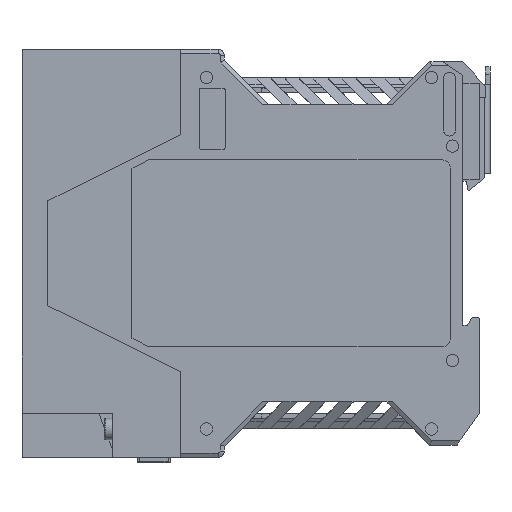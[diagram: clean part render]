
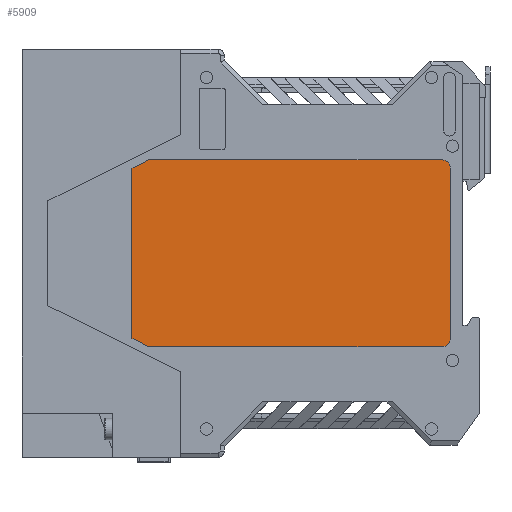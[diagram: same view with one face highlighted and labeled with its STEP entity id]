
A CAD part, left-side view. The second image highlights one B-rep face of the part: STEP entity #5909.
In plain terms, the highlighted planar face has unit normal (-1, 0, 0) as drawn and (0, 0, -1) by its records, which use the part's own axes.
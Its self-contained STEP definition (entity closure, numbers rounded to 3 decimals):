
#5909=ADVANCED_FACE('',(#31295),#31297,.T.);
#31295=FACE_BOUND('',#31296,.T.);
#31296=EDGE_LOOP('',(#51931,#51932,#51933,#51934,#51935,#51936,#51937,#51938));
#31297=PLANE('',#31298);
#31298=AXIS2_PLACEMENT_3D('',#31299,#31300,#31301);
#31299=CARTESIAN_POINT('',(-34.89,74.275,-11.1));
#31300=DIRECTION('',(0.,0.,-1.));
#31301=DIRECTION('',(-1.,0.,0.));
#51931=ORIENTED_EDGE('',*,*,#67457,.T.);
#51932=ORIENTED_EDGE('',*,*,#67458,.T.);
#51933=ORIENTED_EDGE('',*,*,#67459,.T.);
#51934=ORIENTED_EDGE('',*,*,#67460,.F.);
#51935=ORIENTED_EDGE('',*,*,#67461,.T.);
#51936=ORIENTED_EDGE('',*,*,#67462,.F.);
#51937=ORIENTED_EDGE('',*,*,#67456,.T.);
#51938=ORIENTED_EDGE('',*,*,#67454,.T.);
#67454=EDGE_CURVE('',#77293,#77295,#77297,.T.);
#67456=EDGE_CURVE('',#77298,#77293,#77300,.T.);
#67457=EDGE_CURVE('',#77295,#77301,#77302,.T.);
#67458=EDGE_CURVE('',#77301,#77303,#77304,.T.);
#67459=EDGE_CURVE('',#77303,#77305,#77306,.T.);
#67460=EDGE_CURVE('',#77307,#77305,#77308,.T.);
#67461=EDGE_CURVE('',#77307,#77309,#77310,.T.);
#67462=EDGE_CURVE('',#77298,#77309,#77311,.T.);
#77293=VERTEX_POINT('',#95447);
#77295=VERTEX_POINT('',#95451);
#77297=LINE('',#95455,#95456);
#77298=VERTEX_POINT('',#95458);
#77300=LINE('',#95462,#95463);
#77301=VERTEX_POINT('',#95465);
#77302=LINE('',#95466,#95467);
#77303=VERTEX_POINT('',#95469);
#77304=LINE('',#95470,#95471);
#77305=VERTEX_POINT('',#95473);
#77306=LINE('',#95474,#95475);
#77307=VERTEX_POINT('',#95477);
#77308=CIRCLE('',#95478,2.);
#77309=VERTEX_POINT('',#95482);
#77310=LINE('',#95483,#95484);
#77311=CIRCLE('',#95486,2.);
#95447=CARTESIAN_POINT('',(-22.65,84.3,-11.1));
#95451=CARTESIAN_POINT('',(-20.65,88.3,-11.1));
#95455=CARTESIAN_POINT('',(-22.65,84.3,-11.1));
#95456=VECTOR('',#95457,1.);
#95457=DIRECTION('',(0.447,0.894,0.));
#95458=CARTESIAN_POINT('',(-22.65,13.,-11.1));
#95462=CARTESIAN_POINT('',(-22.65,13.,-11.1));
#95463=VECTOR('',#95464,1.);
#95464=DIRECTION('',(0.,1.,0.));
#95465=CARTESIAN_POINT('',(20.65,88.3,-11.1));
#95466=CARTESIAN_POINT('',(-20.65,88.3,-11.1));
#95467=VECTOR('',#95468,1.);
#95468=DIRECTION('',(1.,0.,0.));
#95469=CARTESIAN_POINT('',(22.65,84.3,-11.1));
#95470=CARTESIAN_POINT('',(20.65,88.3,-11.1));
#95471=VECTOR('',#95472,1.);
#95472=DIRECTION('',(0.447,-0.894,0.));
#95473=CARTESIAN_POINT('',(22.65,13.,-11.1));
#95474=CARTESIAN_POINT('',(22.65,84.3,-11.1));
#95475=VECTOR('',#95476,1.);
#95476=DIRECTION('',(0.,-1.,0.));
#95477=CARTESIAN_POINT('',(20.65,11.,-11.1));
#95478=AXIS2_PLACEMENT_3D('',#95479,#95480,#95481);
#95479=CARTESIAN_POINT('',(20.65,13.,-11.1));
#95480=DIRECTION('',(0.,0.,1.));
#95481=DIRECTION('',(0.,-1.,0.));
#95482=CARTESIAN_POINT('',(-20.65,11.,-11.1));
#95483=CARTESIAN_POINT('',(20.65,11.,-11.1));
#95484=VECTOR('',#95485,1.);
#95485=DIRECTION('',(-1.,0.,0.));
#95486=AXIS2_PLACEMENT_3D('',#95487,#95488,#95489);
#95487=CARTESIAN_POINT('',(-20.65,13.,-11.1));
#95488=DIRECTION('',(0.,0.,1.));
#95489=DIRECTION('',(-1.,0.,0.));
